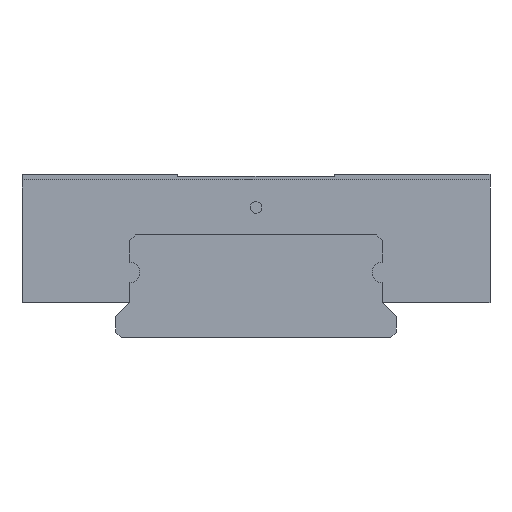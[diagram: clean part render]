
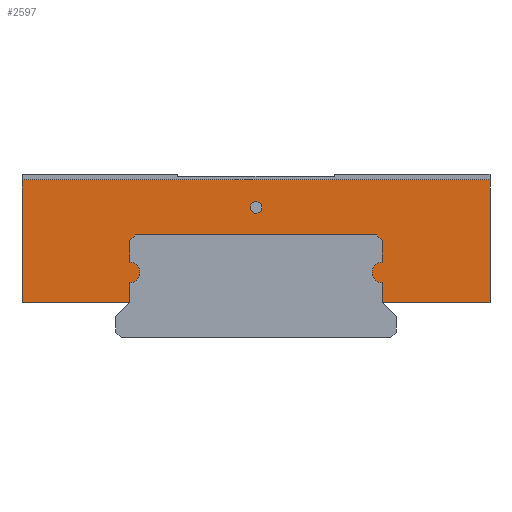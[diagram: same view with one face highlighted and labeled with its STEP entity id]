
A CAD part, left-side view. The second image highlights one B-rep face of the part: STEP entity #2597.
In plain terms, the highlighted planar face has unit normal (-1, 0, 0).
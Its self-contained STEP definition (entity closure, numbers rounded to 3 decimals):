
#1813=CARTESIAN_POINT('',(101.123,0.5,11.15));
#1814=VERTEX_POINT('',#1813);
#1815=CARTESIAN_POINT('',(101.123,0.0,11.15));
#1816=DIRECTION('',(1.0,0.0,0.0));
#1817=DIRECTION('',(0.0,-1.0,0.0));
#1818=AXIS2_PLACEMENT_3D('',#1815,#1816,#1817);
#1819=CIRCLE('',#1818,0.5);
#1820=EDGE_CURVE('',#1814,#1814,#1819,.T.);
#2086=CARTESIAN_POINT('',(101.123,20.0,13.5));
#2087=VERTEX_POINT('',#2086);
#2094=CARTESIAN_POINT('',(101.123,-20.0,13.5));
#2095=VERTEX_POINT('',#2094);
#2096=CARTESIAN_POINT('',(101.123,-20.0,13.5));
#2097=DIRECTION('',(0.0,1.0,0.0));
#2098=VECTOR('',#2097,40.0);
#2099=LINE('',#2096,#2098);
#2100=EDGE_CURVE('',#2095,#2087,#2099,.T.);
#2155=CARTESIAN_POINT('',(101.123,20.0,3.));
#2156=VERTEX_POINT('',#2155);
#2163=CARTESIAN_POINT('',(101.123,20.0,13.5));
#2164=DIRECTION('',(0.0,0.0,-1.0));
#2165=VECTOR('',#2164,10.5);
#2166=LINE('',#2163,#2165);
#2167=EDGE_CURVE('',#2087,#2156,#2166,.T.);
#2190=CARTESIAN_POINT('',(101.123,10.8,3.));
#2191=VERTEX_POINT('',#2190);
#2198=CARTESIAN_POINT('',(101.123,20.0,3.));
#2199=DIRECTION('',(0.0,-1.0,0.0));
#2200=VECTOR('',#2199,9.2);
#2201=LINE('',#2198,#2200);
#2202=EDGE_CURVE('',#2156,#2191,#2201,.T.);
#2221=CARTESIAN_POINT('',(101.123,10.8,4.725));
#2222=VERTEX_POINT('',#2221);
#2229=CARTESIAN_POINT('',(101.123,10.8,3.));
#2230=DIRECTION('',(0.0,0.0,1.0));
#2231=VECTOR('',#2230,1.725);
#2232=LINE('',#2229,#2231);
#2233=EDGE_CURVE('',#2191,#2222,#2232,.T.);
#2253=CARTESIAN_POINT('',(101.123,10.8,6.475));
#2254=VERTEX_POINT('',#2253);
#2261=CARTESIAN_POINT('',(101.123,10.8,5.6));
#2262=DIRECTION('',(-1.0,0.0,0.0));
#2263=DIRECTION('',(0.0,0.0,-1.0));
#2264=AXIS2_PLACEMENT_3D('',#2261,#2262,#2263);
#2265=CIRCLE('',#2264,0.875);
#2266=EDGE_CURVE('',#2222,#2254,#2265,.T.);
#2285=CARTESIAN_POINT('',(101.123,10.8,8.3));
#2286=VERTEX_POINT('',#2285);
#2293=CARTESIAN_POINT('',(101.123,10.8,6.475));
#2294=DIRECTION('',(0.0,0.0,1.0));
#2295=VECTOR('',#2294,1.825);
#2296=LINE('',#2293,#2295);
#2297=EDGE_CURVE('',#2254,#2286,#2296,.T.);
#2316=CARTESIAN_POINT('',(101.123,10.3,8.8));
#2317=VERTEX_POINT('',#2316);
#2324=CARTESIAN_POINT('',(101.123,10.8,8.3));
#2325=DIRECTION('',(0.0,-0.707,0.707));
#2326=VECTOR('',#2325,0.707);
#2327=LINE('',#2324,#2326);
#2328=EDGE_CURVE('',#2286,#2317,#2327,.T.);
#2347=CARTESIAN_POINT('',(101.123,-10.3,8.8));
#2348=VERTEX_POINT('',#2347);
#2355=CARTESIAN_POINT('',(101.123,10.3,8.8));
#2356=DIRECTION('',(0.0,-1.0,0.0));
#2357=VECTOR('',#2356,20.6);
#2358=LINE('',#2355,#2357);
#2359=EDGE_CURVE('',#2317,#2348,#2358,.T.);
#2378=CARTESIAN_POINT('',(101.123,-10.8,8.3));
#2379=VERTEX_POINT('',#2378);
#2386=CARTESIAN_POINT('',(101.123,-10.3,8.8));
#2387=DIRECTION('',(0.0,-0.707,-0.707));
#2388=VECTOR('',#2387,0.707);
#2389=LINE('',#2386,#2388);
#2390=EDGE_CURVE('',#2348,#2379,#2389,.T.);
#2409=CARTESIAN_POINT('',(101.123,-10.8,6.475));
#2410=VERTEX_POINT('',#2409);
#2417=CARTESIAN_POINT('',(101.123,-10.8,8.3));
#2418=DIRECTION('',(0.0,0.0,-1.0));
#2419=VECTOR('',#2418,1.825);
#2420=LINE('',#2417,#2419);
#2421=EDGE_CURVE('',#2379,#2410,#2420,.T.);
#2441=CARTESIAN_POINT('',(101.123,-10.8,4.725));
#2442=VERTEX_POINT('',#2441);
#2449=CARTESIAN_POINT('',(101.123,-10.8,5.6));
#2450=DIRECTION('',(-1.0,0.0,0.0));
#2451=DIRECTION('',(0.0,0.0,1.0));
#2452=AXIS2_PLACEMENT_3D('',#2449,#2450,#2451);
#2453=CIRCLE('',#2452,0.875);
#2454=EDGE_CURVE('',#2410,#2442,#2453,.T.);
#2473=CARTESIAN_POINT('',(101.123,-10.8,3.));
#2474=VERTEX_POINT('',#2473);
#2481=CARTESIAN_POINT('',(101.123,-10.8,4.725));
#2482=DIRECTION('',(0.0,0.0,-1.0));
#2483=VECTOR('',#2482,1.725);
#2484=LINE('',#2481,#2483);
#2485=EDGE_CURVE('',#2442,#2474,#2484,.T.);
#2504=CARTESIAN_POINT('',(101.123,-20.0,3.));
#2505=VERTEX_POINT('',#2504);
#2512=CARTESIAN_POINT('',(101.123,-10.8,3.));
#2513=DIRECTION('',(0.0,-1.0,0.0));
#2514=VECTOR('',#2513,9.2);
#2515=LINE('',#2512,#2514);
#2516=EDGE_CURVE('',#2474,#2505,#2515,.T.);
#2538=CARTESIAN_POINT('',(101.123,-20.0,3.));
#2539=DIRECTION('',(0.0,0.0,1.0));
#2540=VECTOR('',#2539,10.5);
#2541=LINE('',#2538,#2540);
#2542=EDGE_CURVE('',#2505,#2095,#2541,.T.);
#2573=CARTESIAN_POINT('',(101.123,0.,9.06));
#2574=DIRECTION('',(1.0,0.0,0.0));
#2575=DIRECTION('',(0.0,0.0,-1.0));
#2576=AXIS2_PLACEMENT_3D('',#2573,#2574,#2575);
#2577=PLANE('',#2576);
#2578=ORIENTED_EDGE('',*,*,#2542,.T.);
#2579=ORIENTED_EDGE('',*,*,#2100,.T.);
#2580=ORIENTED_EDGE('',*,*,#2167,.T.);
#2581=ORIENTED_EDGE('',*,*,#2202,.T.);
#2582=ORIENTED_EDGE('',*,*,#2233,.T.);
#2583=ORIENTED_EDGE('',*,*,#2266,.T.);
#2584=ORIENTED_EDGE('',*,*,#2297,.T.);
#2585=ORIENTED_EDGE('',*,*,#2328,.T.);
#2586=ORIENTED_EDGE('',*,*,#2359,.T.);
#2587=ORIENTED_EDGE('',*,*,#2390,.T.);
#2588=ORIENTED_EDGE('',*,*,#2421,.T.);
#2589=ORIENTED_EDGE('',*,*,#2454,.T.);
#2590=ORIENTED_EDGE('',*,*,#2485,.T.);
#2591=ORIENTED_EDGE('',*,*,#2516,.T.);
#2592=EDGE_LOOP('',(#2578,#2579,#2580,#2581,#2582,#2583,#2584,#2585,#2586,#2587,#2588,#2589,#2590,#2591));
#2593=FACE_OUTER_BOUND('',#2592,.T.);
#2594=ORIENTED_EDGE('',*,*,#1820,.T.);
#2595=EDGE_LOOP('',(#2594));
#2596=FACE_BOUND('',#2595,.T.);
#2597=ADVANCED_FACE('',(#2593,#2596),#2577,.F.);
